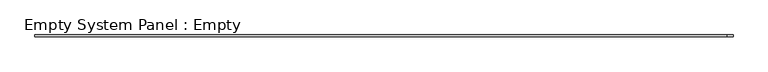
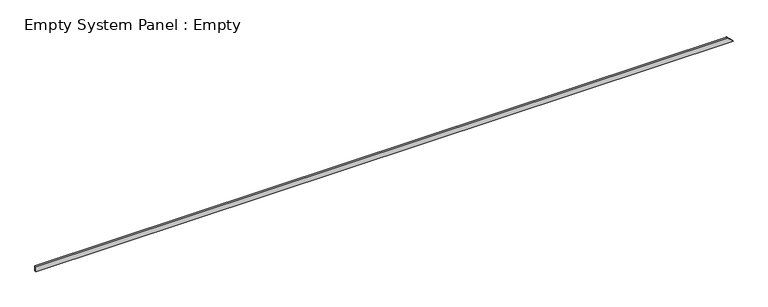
"""IFC4 building model written with IfcOpenShell, lengths in millimetres: plate geometry, Empty System Panel : Empty."""

from ifc_helpers import new_model, si_unit, frame, origin, place, context, project, spatial, polyline, outline, extrude, source, transform, mapped, element, save


def empty_system_panel_empty_437aea57(model_context):
    return source(origin(), model_context, "Body", "SweptSolid", [
        extrude(outline(polyline([(0.0, -20259.5826554), (0.0, 20259.5826554), (330.0, 19933.233659), (310.0, 19933.233659), (310.0, -20259.5826554), (0.0, -20259.5826554)])), frame((0.0, -50.0, 0.0), z_axis=(0.0, 1.0, 0.0), x_axis=(0.0, 0.0, 1.0)), (0.0, 0.0, 1.0), 100.0),
    ])


if __name__ == "__main__":
    model = new_model("IFC4")
    model_context = context("Model", 3, world=origin())
    ifc_project = project(units=[si_unit("LENGTHUNIT", "METRE", prefix="MILLI")], contexts=[model_context])
    site = spatial("IfcSite", under=ifc_project)
    building = spatial("IfcBuilding", under=site)
    placement = place(None, origin())
    empty_system_panel_empty_shape = empty_system_panel_empty_437aea57(model_context)
    element("IfcPlate", 1, ObjectType="Empty System Panel : Empty", at=placement, inside=building, context=model_context, shape_type="MappedRepresentation", body=[
        mapped(empty_system_panel_empty_shape, transform((0.0, 0.0, 0.0), x_axis=(1.0, 0.0, 0.0), y_axis=(0.0, 1.0, 0.0), z_axis=(0.0, 0.0, 1.0))),
    ])
    save(model, "model.ifc")
